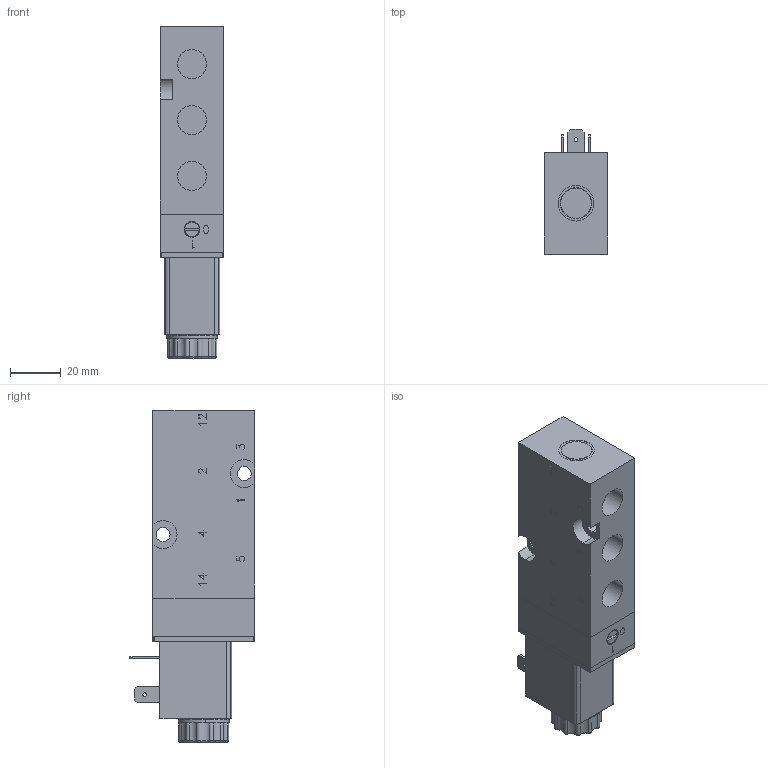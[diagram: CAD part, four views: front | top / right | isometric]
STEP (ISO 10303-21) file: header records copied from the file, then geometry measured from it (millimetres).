
FILE_DESCRIPTION (( 'STEP AP214' ), '1' );
FILE_NAME ('ICKN-55-511-HN-F12_Airtec.step', '2019-01-08T09:18:26', ( '' ), ( '' ), 'SwSTEP 2.0', 'SolidWorks 2010', '' );
FILE_SCHEMA (( 'AUTOMOTIVE_DESIGN' ));
Length unit declared in the file: millimetre
Products named in the file (3): Volumenkörper6; Volumenkörper1; ICKN-55-511-HN-F12_Airtec
Assembly tree (2 placements, depth 2):
  ICKN-55-511-HN-F12_Airtec
    Volumenkörper1
    Volumenkörper6
Bounding box: 25 x 49.2 x 130.6 mm (x, y, z)
Volume: 106021 mm3; surface area: 24646.6 mm2
Topology: 2 solids, 2 shells, 646 faces, 1700 edges, 1098 vertices
Faces by surface type: plane 356, cylinder 127, cone 90, torus 57, bspline 16
Entity records: 25693 total; most frequent: CARTESIAN_POINT 5388, ORIENTED_EDGE 3392, DIRECTION 3277, EDGE_CURVE 1696, AXIS2_PLACEMENT_3D 1120, VERTEX_POINT 1098, LINE 1037, VECTOR 1037
